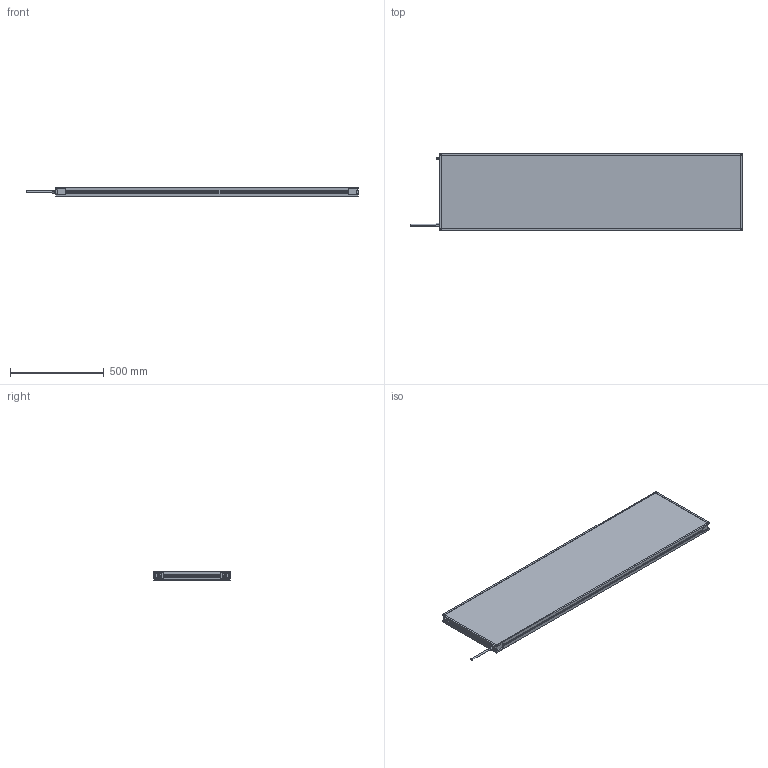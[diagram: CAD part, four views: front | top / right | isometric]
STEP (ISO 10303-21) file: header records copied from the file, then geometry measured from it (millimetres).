
FILE_DESCRIPTION (( 'STEP AP214' ), '1' );
FILE_NAME ('MBACK-xxxx-xxx-M1A2_CLIENT400x1600.STEP', '2022-04-01T11:37:01', ( '' ), ( '' ), 'SwSTEP 2.0', 'SolidWorks 2020', '' );
FILE_SCHEMA (( 'AUTOMOTIVE_DESIGN' ));
Length unit declared in the file: millimetre
Products named in the file (1): MBACK-xxxx-xxx-M1A2_CLIENT400x1600
Bounding box: 1767.4 x 408 x 45.5 mm (x, y, z)
Volume: 27312745.3 mm3; surface area: 1585929.6 mm2
Topology: 1 solids, 1 shells, 470 faces, 1210 edges, 804 vertices
Faces by surface type: plane 265, cylinder 117, bspline 80, cone 8
Entity records: 18046 total; most frequent: CARTESIAN_POINT 6837, ORIENTED_EDGE 2420, DIRECTION 2082, EDGE_CURVE 1210, VERTEX_POINT 804, VECTOR 800, LINE 800, AXIS2_PLACEMENT_3D 641
